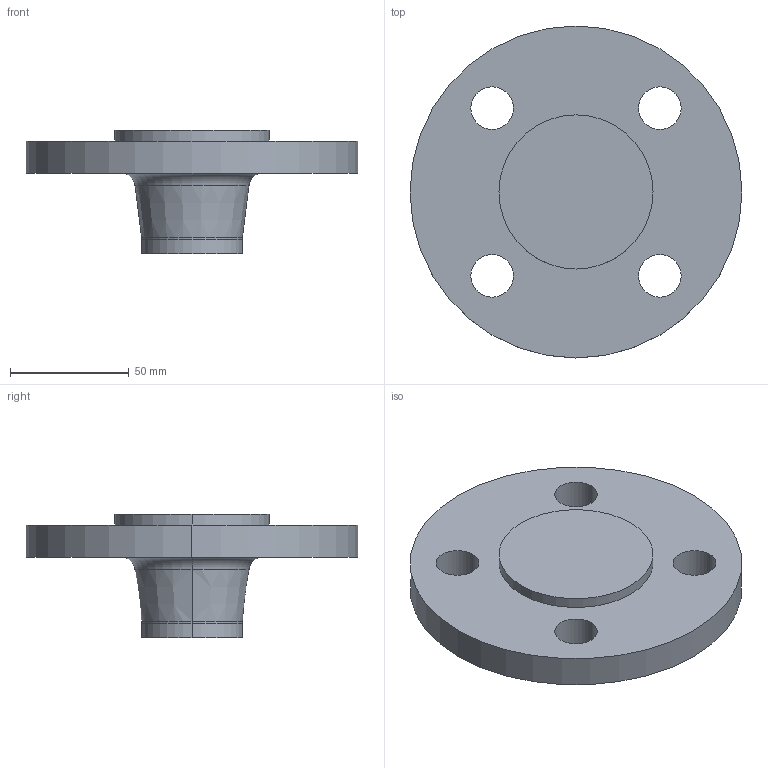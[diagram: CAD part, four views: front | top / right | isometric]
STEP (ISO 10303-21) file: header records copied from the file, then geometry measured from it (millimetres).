
FILE_DESCRIPTION (( 'STEP AP214' ), '1' );
FILE_NAME ('PN40 DN32 Type 21(ii) - Type E Face.STEP', '2018-12-29T23:43:34', ( '' ), ( '' ), 'SwSTEP 2.0', 'SolidWorks 2019', '' );
FILE_SCHEMA (( 'AUTOMOTIVE_DESIGN' ));
Length unit declared in the file: millimetre
Products named in the file (1): PN40 DN32 Type 21(ii) - Type E Face
Bounding box: 140 x 140 x 52 mm (x, y, z)
Volume: 264761.7 mm3; surface area: 42738.6 mm2
Topology: 1 solids, 1 shells, 24 faces, 54 edges, 34 vertices
Faces by surface type: cylinder 14, torus 4, plane 4, cone 2
Entity records: 738 total; most frequent: DIRECTION 142, CARTESIAN_POINT 113, ORIENTED_EDGE 108, AXIS2_PLACEMENT_3D 63, EDGE_CURVE 54, CIRCLE 38, VERTEX_POINT 34, EDGE_LOOP 34
